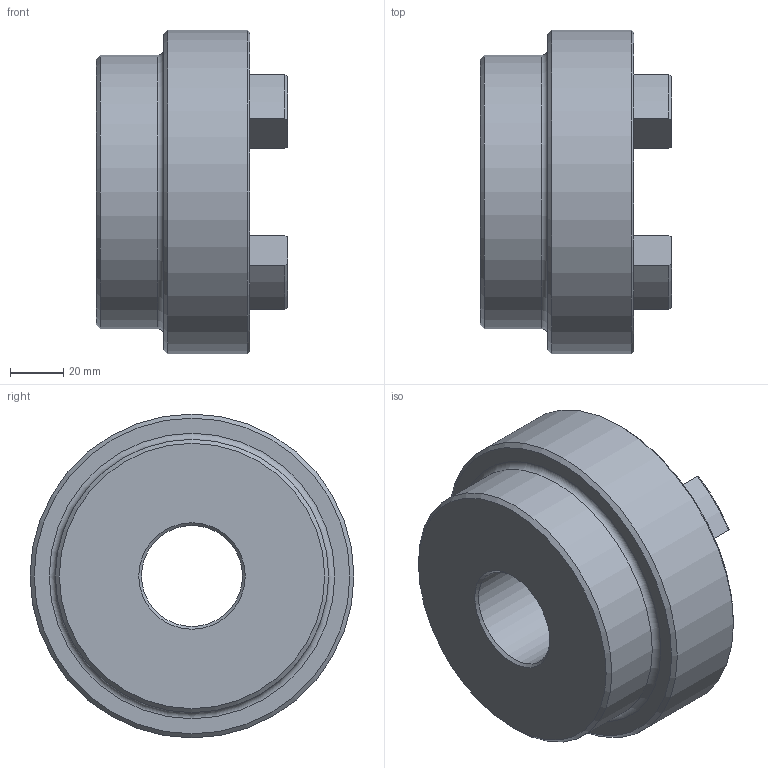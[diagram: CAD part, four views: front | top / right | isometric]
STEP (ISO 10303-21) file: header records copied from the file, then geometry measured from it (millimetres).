
FILE_DESCRIPTION (( 'STEP AP203' ), '1' );
FILE_NAME ('RC5.step', '2024-07-25T13:25:23', ( 'Adlan' ), ( '' ), 'SwSTEP 2.0', 'SolidWorks 2013', '' );
FILE_SCHEMA (( 'CONFIG_CONTROL_DESIGN' ));
Length unit declared in the file: inch
Products named in the file (1): RC5
Bounding box: 72.14 x 122.17 x 122.17 mm (x, y, z)
Volume: 432580.8 mm3; surface area: 58363.5 mm2
Topology: 1 solids, 1 shells, 76 faces, 189 edges, 117 vertices
Faces by surface type: cylinder 31, torus 17, plane 16, cone 12
Full cylindrical faces by diameter (mm): 38.113 x1, 103.124 x1, 122.174 x1
Entity records: 2349 total; most frequent: CARTESIAN_POINT 443, DIRECTION 416, ORIENTED_EDGE 358, EDGE_CURVE 179, AXIS2_PLACEMENT_3D 168, VERTEX_POINT 115, CIRCLE 91, EDGE_LOOP 88
